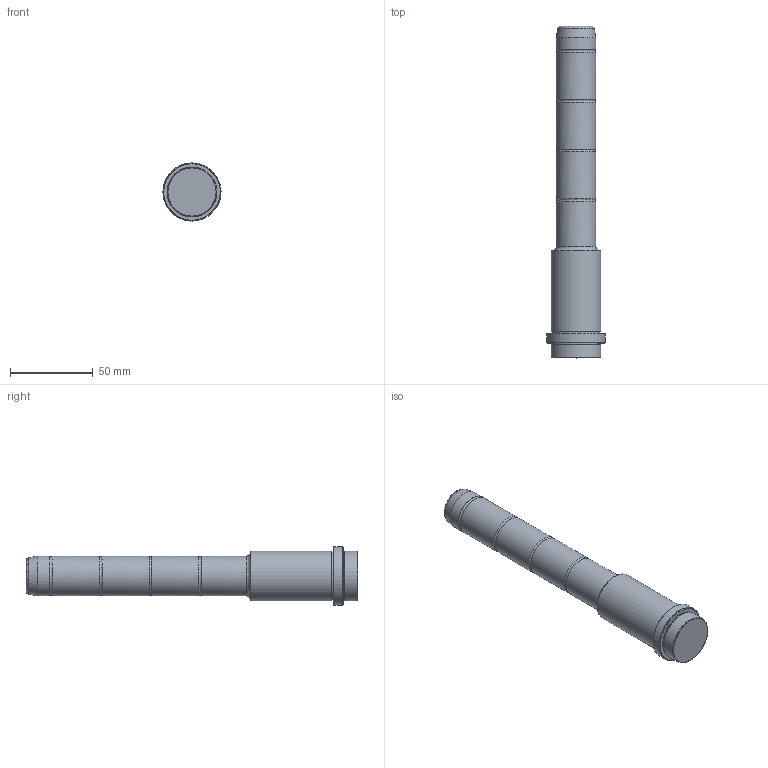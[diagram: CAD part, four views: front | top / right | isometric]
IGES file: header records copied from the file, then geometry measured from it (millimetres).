
Start section: Missler Software BP 521, 31674 Labege Cedex, France Tel   : +33 (0)5 61 00 03 00 Fax   : +33 (0)5 61 00 03 03 Email : sup.topsolid@topsolid.com
Global section: file name: D:\Cuma\24 03 2009\D03\D03_24X56X135.igs; native system: TopSolid v605250 Missler Software; preprocessor: IGES preprocessor v100000; date: 030101.002307; units: millimetre
Bounding box: 35 x 200 x 35 mm (x, y, z)
Surface area: 18205.5 mm2 (no closed solid volume)
Topology: 0 solids, 0 shells, 28 faces, 469 edges, 450 vertices
Faces by surface type: bspline 28
